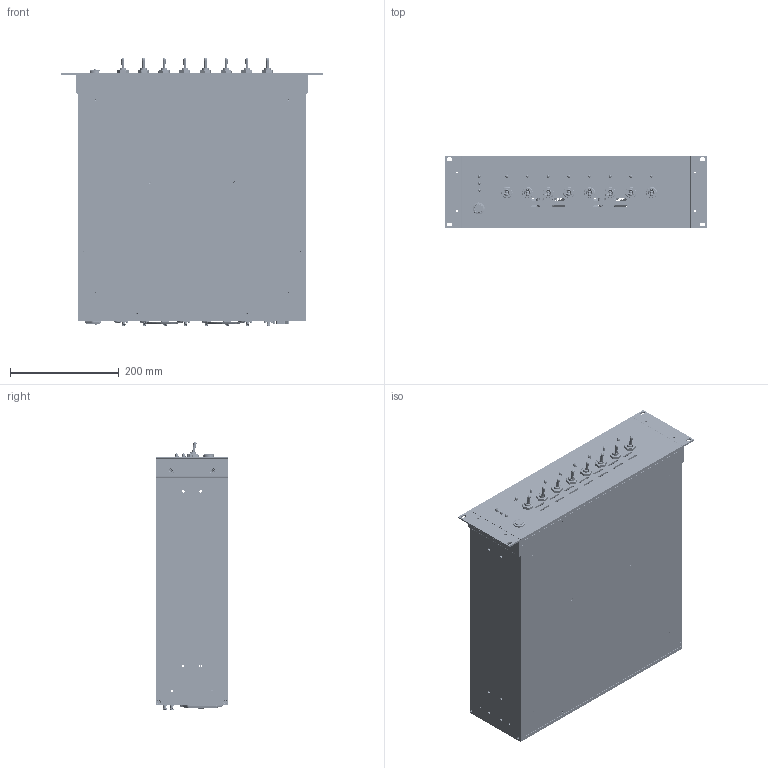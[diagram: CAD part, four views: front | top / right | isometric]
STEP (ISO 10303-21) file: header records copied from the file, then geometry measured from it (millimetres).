
FILE_DESCRIPTION (( 'STEP AP214' ), '1' );
FILE_NAME ('PA-LPN-40-50M500M-5-35DBM-SFF-X8.STEP', '2026-04-21T13:18:25', ( '' ), ( '' ), 'SwSTEP 2.0', 'SolidWorks 2025', '' );
FILE_SCHEMA (( 'AUTOMOTIVE_DESIGN' ));
Length unit declared in the file: millimetre
Products named in the file (1): PA-LPN-40-50M500M-5-35DBM-SFF-X8
Bounding box: 482.61 x 132.6 x 494.39 mm (x, y, z)
Volume: 2471806 mm3; surface area: 2244330.9 mm2
Topology: 431 solids, 464 shells, 20571 faces, 53453 edges, 34476 vertices
Faces by surface type: plane 7734, cylinder 4991, bspline 4366, cone 1564, torus 1217, sphere 699
Full cylindrical faces by diameter (mm): 0.914 x16, 1.7 x16, 2 x16, 2.184 x154, 2.438 x10, 2.5 x16, 2.845 x49, 3 x16, 3.048 x2, 3.251 x2, 3.264 x28, 3.429 x4, 3.505 x8, 3.556 x32, 3.81 x16, 3.988 x12, 4 x16, 4.039 x8, 4.293 x8, 4.3 x8, 4.5 x19, 4.572 x16, 4.775 x12, 4.826 x4, 5 x4, 5.283 x80, 5.4 x8, 5.429 x16, 6.045 x8, 6.35 x24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
Entity records: 954539 total; most frequent: CARTESIAN_POINT 344727, ORIENTED_EDGE 102516, DIRECTION 91791, EDGE_CURVE 51258, VERTEX_POINT 33817, AXIS2_PLACEMENT_3D 33405, EDGE_LOOP 25341, VECTOR 24981
